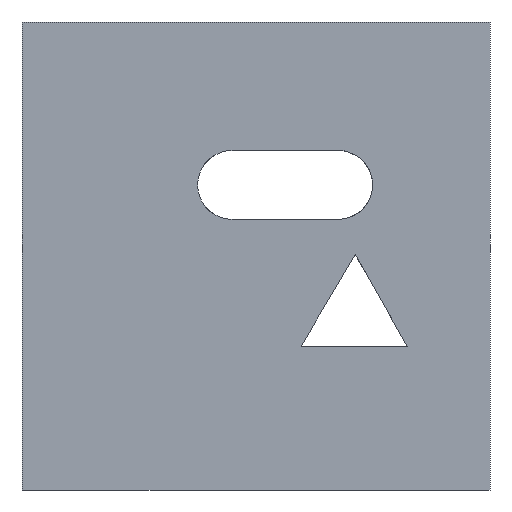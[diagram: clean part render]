
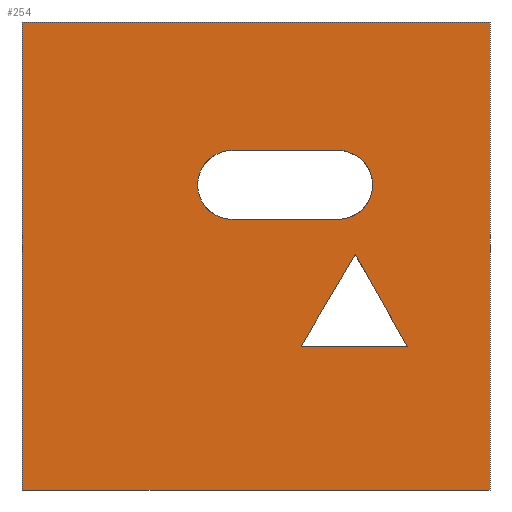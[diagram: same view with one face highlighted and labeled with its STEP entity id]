
A CAD part, left-side view. The second image highlights one B-rep face of the part: STEP entity #254.
In plain terms, the highlighted planar face has unit normal (-1, 0, 0).
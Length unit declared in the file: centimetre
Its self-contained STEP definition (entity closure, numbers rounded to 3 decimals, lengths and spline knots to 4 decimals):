
#5 = VERTEX_POINT ( 'NONE', #995 ) ;
#13 = CARTESIAN_POINT ( 'NONE',  ( 0., 176.9045, 307.5444 ) ) ;
#15 = EDGE_CURVE ( 'NONE', #701, #456, #1453, .T. ) ;
#18 = EDGE_LOOP ( 'NONE', ( #360, #369, #1205, #789 ) ) ;
#29 = FACE_BOUND ( 'NONE', #1268, .T. ) ;
#49 = FACE_BOUND ( 'NONE', #18, .T. ) ;
#89 = ORIENTED_EDGE ( 'NONE', *, *, #979, .T. ) ;
#118 = VERTEX_POINT ( 'NONE', #331 ) ;
#159 = EDGE_CURVE ( 'NONE', #548, #669, #1340, .T. ) ;
#170 = DIRECTION ( 'NONE',  ( 0., 0., -1. ) ) ;
#178 = CARTESIAN_POINT ( 'NONE',  ( 0., 287.8028, 502.4985 ) ) ;
#180 = VECTOR ( 'NONE', #1060, 100. ) ;
#192 = EDGE_CURVE ( 'NONE', #1465, #701, #1285, .T. ) ;
#196 = LINE ( 'NONE', #1215, #294 ) ;
#203 = DIRECTION ( 'NONE',  ( 0., 1., 0. ) ) ;
#254 = ADVANCED_FACE ( 'NONE', ( #29, #49, #281 ), #852, .F. ) ;
#266 = DIRECTION ( 'NONE',  ( 0., 0., -1. ) ) ;
#280 = LINE ( 'NONE', #385, #1195 ) ;
#281 = FACE_OUTER_BOUND ( 'NONE', #1405, .T. ) ;
#294 = VECTOR ( 'NONE', #665, 100. ) ;
#331 = CARTESIAN_POINT ( 'NONE',  ( 0., 0., 0. ) ) ;
#355 = EDGE_CURVE ( 'NONE', #1111, #1120, #526, .T. ) ;
#360 = ORIENTED_EDGE ( 'NONE', *, *, #529, .F. ) ;
#369 = ORIENTED_EDGE ( 'NONE', *, *, #159, .F. ) ;
#371 = DIRECTION ( 'NONE',  ( 0., 0., -1. ) ) ;
#385 = CARTESIAN_POINT ( 'NONE',  ( 0., 1000., 1000. ) ) ;
#408 = CARTESIAN_POINT ( 'NONE',  ( 0., 1000., 1000. ) ) ;
#425 = DIRECTION ( 'NONE',  ( 0., 1., 0. ) ) ;
#432 = EDGE_CURVE ( 'NONE', #5, #118, #992, .T. ) ;
#456 = VERTEX_POINT ( 'NONE', #530 ) ;
#487 = CARTESIAN_POINT ( 'NONE',  ( 0., 324.4231, 651.9233 ) ) ;
#526 = CIRCLE ( 'NONE', #549, 73.5878 ) ;
#529 = EDGE_CURVE ( 'NONE', #669, #1111, #904, .T. ) ;
#530 = CARTESIAN_POINT ( 'NONE',  ( 0., 403.6767, 307.5444 ) ) ;
#531 = CARTESIAN_POINT ( 'NONE',  ( 0., 176.9045, 307.5444 ) ) ;
#548 = VERTEX_POINT ( 'NONE', #1228 ) ;
#549 = AXIS2_PLACEMENT_3D ( 'NONE', #734, #1081, #170 ) ;
#559 = CARTESIAN_POINT ( 'NONE',  ( 0., 551.1585, 725.5112 ) ) ;
#587 = ORIENTED_EDGE ( 'NONE', *, *, #432, .T. ) ;
#593 = LINE ( 'NONE', #1052, #180 ) ;
#620 = VECTOR ( 'NONE', #713, 100. ) ;
#621 = EDGE_CURVE ( 'NONE', #456, #1465, #196, .T. ) ;
#665 = DIRECTION ( 'NONE',  ( 0., -0.511, 0.86 ) ) ;
#668 = ORIENTED_EDGE ( 'NONE', *, *, #621, .T. ) ;
#669 = VERTEX_POINT ( 'NONE', #1221 ) ;
#676 = VERTEX_POINT ( 'NONE', #1124 ) ;
#701 = VERTEX_POINT ( 'NONE', #531 ) ;
#704 = ORIENTED_EDGE ( 'NONE', *, *, #1122, .F. ) ;
#705 = CARTESIAN_POINT ( 'NONE',  ( 0., 551.1585, 725.5112 ) ) ;
#713 = DIRECTION ( 'NONE',  ( 0., -1., 0. ) ) ;
#734 = CARTESIAN_POINT ( 'NONE',  ( 0., 551.1585, 651.9233 ) ) ;
#757 = CARTESIAN_POINT ( 'NONE',  ( 0., 403.6767, 307.5444 ) ) ;
#789 = ORIENTED_EDGE ( 'NONE', *, *, #355, .F. ) ;
#852 = PLANE ( 'NONE',  #1200 ) ;
#890 = ORIENTED_EDGE ( 'NONE', *, *, #1245, .F. ) ;
#904 = LINE ( 'NONE', #559, #1244 ) ;
#912 = VERTEX_POINT ( 'NONE', #1409 ) ;
#975 = DIRECTION ( 'NONE',  ( 1., 0., 0. ) ) ;
#979 = EDGE_CURVE ( 'NONE', #676, #5, #280, .T. ) ;
#980 = DIRECTION ( 'NONE',  ( 0., -1., 0. ) ) ;
#982 = VECTOR ( 'NONE', #1301, 100. ) ;
#992 = LINE ( 'NONE', #1020, #1024 ) ;
#995 = CARTESIAN_POINT ( 'NONE',  ( 0., 1000., 0. ) ) ;
#1000 = VECTOR ( 'NONE', #980, 100. ) ;
#1020 = CARTESIAN_POINT ( 'NONE',  ( 0., 1000., 0. ) ) ;
#1024 = VECTOR ( 'NONE', #1472, 100. ) ;
#1047 = VECTOR ( 'NONE', #425, 100. ) ;
#1052 = CARTESIAN_POINT ( 'NONE',  ( 0., 0., 1000. ) ) ;
#1060 = DIRECTION ( 'NONE',  ( 0., 0., -1. ) ) ;
#1081 = DIRECTION ( 'NONE',  ( -1., 0., 0. ) ) ;
#1111 = VERTEX_POINT ( 'NONE', #705 ) ;
#1120 = VERTEX_POINT ( 'NONE', #1281 ) ;
#1122 = EDGE_CURVE ( 'NONE', #912, #118, #593, .T. ) ;
#1124 = CARTESIAN_POINT ( 'NONE',  ( 0., 1000., 1000. ) ) ;
#1150 = LINE ( 'NONE', #1288, #620 ) ;
#1194 = DIRECTION ( 'NONE',  ( 0., 0., -1. ) ) ;
#1195 = VECTOR ( 'NONE', #266, 100. ) ;
#1198 = ORIENTED_EDGE ( 'NONE', *, *, #15, .T. ) ;
#1200 = AXIS2_PLACEMENT_3D ( 'NONE', #408, #975, #1194 ) ;
#1205 = ORIENTED_EDGE ( 'NONE', *, *, #1380, .F. ) ;
#1215 = CARTESIAN_POINT ( 'NONE',  ( 0., 287.8028, 502.4985 ) ) ;
#1219 = AXIS2_PLACEMENT_3D ( 'NONE', #487, #1294, #371 ) ;
#1221 = CARTESIAN_POINT ( 'NONE',  ( 0., 324.4231, 725.5112 ) ) ;
#1228 = CARTESIAN_POINT ( 'NONE',  ( 0., 324.4231, 578.3355 ) ) ;
#1244 = VECTOR ( 'NONE', #203, 100. ) ;
#1245 = EDGE_CURVE ( 'NONE', #676, #912, #1150, .T. ) ;
#1268 = EDGE_LOOP ( 'NONE', ( #668, #1377, #1198 ) ) ;
#1281 = CARTESIAN_POINT ( 'NONE',  ( 0., 551.1585, 578.3355 ) ) ;
#1285 = LINE ( 'NONE', #13, #982 ) ;
#1288 = CARTESIAN_POINT ( 'NONE',  ( 0., 1000., 1000. ) ) ;
#1294 = DIRECTION ( 'NONE',  ( -1., 0., 0. ) ) ;
#1301 = DIRECTION ( 'NONE',  ( 0., -0.494, -0.869 ) ) ;
#1322 = CARTESIAN_POINT ( 'NONE',  ( 0., 324.4231, 578.3355 ) ) ;
#1331 = LINE ( 'NONE', #1322, #1000 ) ;
#1340 = CIRCLE ( 'NONE', #1219, 73.5878 ) ;
#1377 = ORIENTED_EDGE ( 'NONE', *, *, #192, .T. ) ;
#1380 = EDGE_CURVE ( 'NONE', #1120, #548, #1331, .T. ) ;
#1405 = EDGE_LOOP ( 'NONE', ( #587, #704, #890, #89 ) ) ;
#1409 = CARTESIAN_POINT ( 'NONE',  ( 0., 0., 1000. ) ) ;
#1453 = LINE ( 'NONE', #757, #1047 ) ;
#1465 = VERTEX_POINT ( 'NONE', #178 ) ;
#1472 = DIRECTION ( 'NONE',  ( 0., -1., 0. ) ) ;
